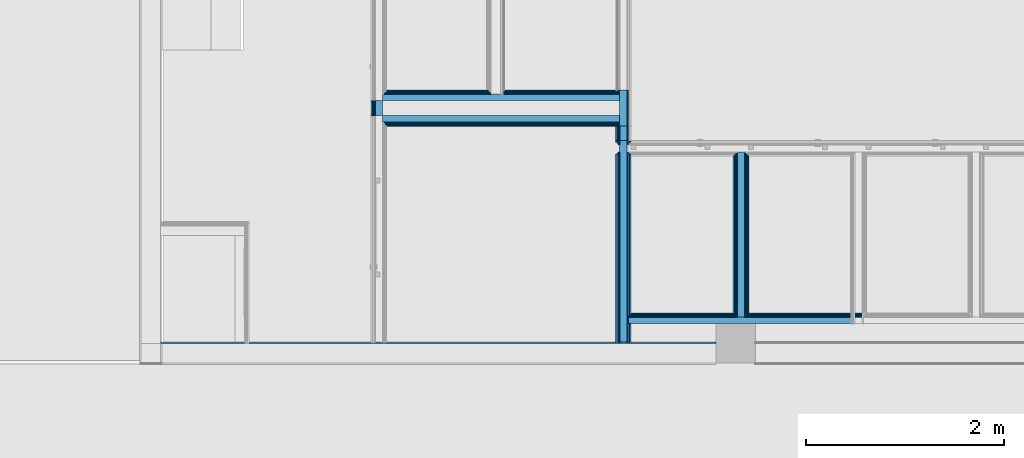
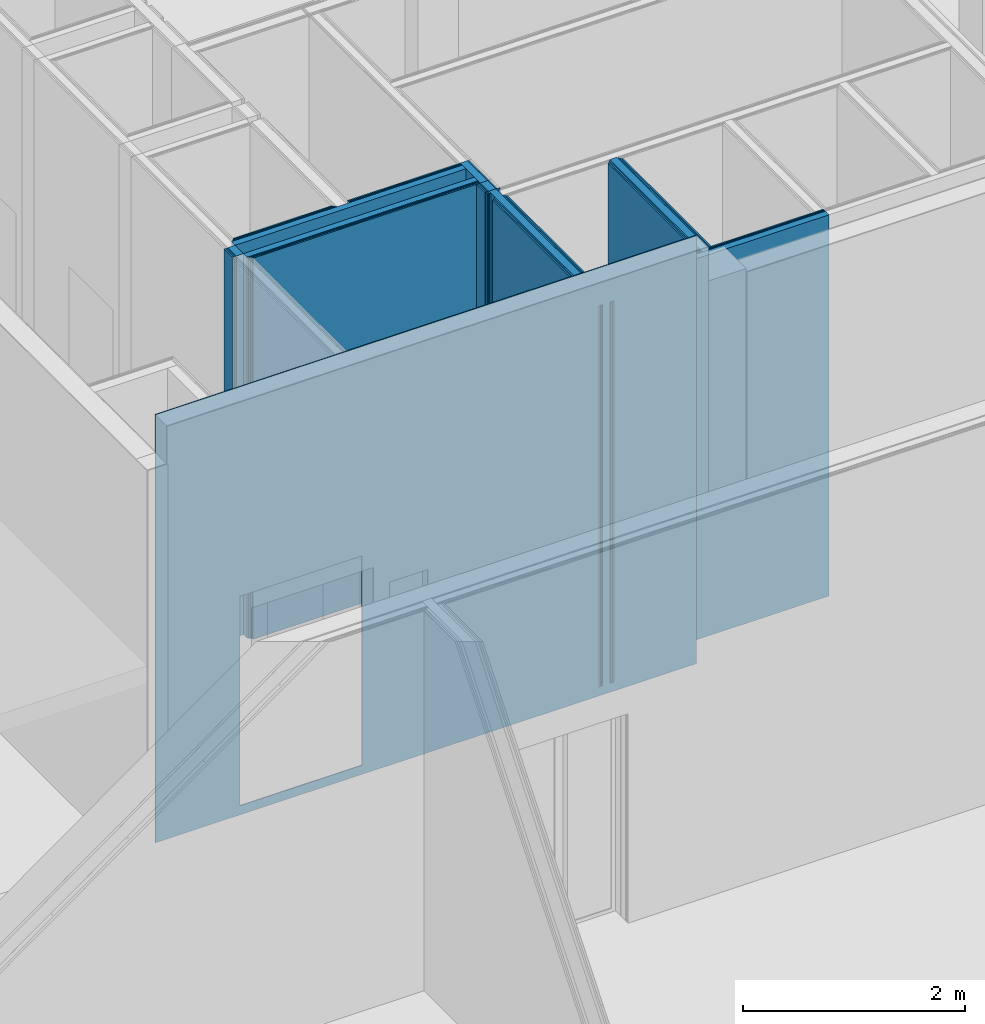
# One storey, part 198 of 260: 38 building element parts, 2 openings, 9 elements without a shape of their own.
"""IFC2X3 building model written with IfcOpenShell, lengths in millimetres."""

from ifc_helpers import new_model, entity, si_unit, converted_unit, derived_unit, money_unit, direction, frame, origin_with_axes, place, context, subcontext, project, spatial, faceted_brep, material, type_object, element, aggregate, save


model = new_model("IFC2X3")

# Units and contexts
model_context = context("Model", 3, precision=0.01, world=origin_with_axes(), true_north=direction((0.0, 1.0)))
body_context = subcontext(model_context, "Body", "Model", "MODEL_VIEW")
ifc_project = project(units=[si_unit("LENGTHUNIT", "METRE", prefix="MILLI"), si_unit("AREAUNIT", "SQUARE_METRE"), si_unit("VOLUMEUNIT", "CUBIC_METRE"), converted_unit("PLANEANGLEUNIT", "DEGREE", entity("IfcPlaneAngleMeasure", 0.0174532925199), si_unit("PLANEANGLEUNIT", "RADIAN"), dimensions=[0, 0, 0, 0, 0, 0, 0]), money_unit("EUR"), converted_unit("TIMEUNIT", "Year", entity("IfcTimeMeasure", 31556926.0), si_unit("TIMEUNIT", "SECOND"), dimensions=[0, 0, 1, 0, 0, 0, 0]), si_unit("MASSUNIT", "GRAM", prefix="KILO"), si_unit("THERMODYNAMICTEMPERATUREUNIT", "DEGREE_CELSIUS"), si_unit("LUMINOUSINTENSITYUNIT", "LUMEN"), si_unit("ENERGYUNIT", "JOULE", prefix="MEGA"), derived_unit("THERMALCONDUCTANCEUNIT", [(si_unit("POWERUNIT", "WATT"), 1), (si_unit("LENGTHUNIT", "METRE"), -1), (si_unit("THERMODYNAMICTEMPERATUREUNIT", "KELVIN"), -1)]), derived_unit("SPECIFICHEATCAPACITYUNIT", [(si_unit("ENERGYUNIT", "JOULE"), 1), (si_unit("MASSUNIT", "GRAM", prefix="KILO"), -1), (si_unit("THERMODYNAMICTEMPERATUREUNIT", "KELVIN"), -1)]), derived_unit("MASSDENSITYUNIT", [(si_unit("MASSUNIT", "GRAM", prefix="KILO"), 1), (si_unit("VOLUMEUNIT", "CUBIC_METRE"), -1)])], contexts=[model_context])

# Site, building, storey
site_placement = place(None, origin_with_axes())
site = spatial("IfcSite", under=ifc_project, at=site_placement, Name="Kolde pst 67a", CompositionType="ELEMENT")
building_placement = place(site_placement, origin_with_axes())
building = spatial("IfcBuilding", under=site, at=building_placement, Name="Riigigümnaasium", CompositionType="ELEMENT")
storey_placement = place(building_placement, origin_with_axes())
storey = spatial("IfcBuildingStorey", under=building, at=storey_placement, Name="1. korrus", CompositionType="ELEMENT", Elevation=0.0)

# Wall, openings, building element part
wall_type_1 = type_object("IfcWallType", Name="SS-RB-20/1_+2 krohv 55 dB 220", PredefinedType="NOTDEFINED")
wall_1_placement = place(storey_placement, frame((64129.9442044, 10899.9619405, -100.100001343), z_axis=(0.0, 0.0, 1.0), x_axis=(1.0, 0.0, 0.0)))
wall_1 = element("IfcWall", 1, at=wall_1_placement, inside=storey, type_object=wall_type_1, Name="Sisesein")
opening_1_placement = place(wall_1_placement, frame((1512.33413721, 0.0, 100.100001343), z_axis=(0.0, 0.0, 1.0), x_axis=(1.0, 0.0, 0.0)))
element("IfcOpeningElement", 2, at=opening_1_placement, cuts=wall_1, Name="Ukseava", context=body_context, shape_type="Brep", body=[
    faceted_brep([(-633.609193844, -220.0, 0.0), (-633.609193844, -220.0, 2300.0), (-633.609193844, 440.0, 2300.0), (-633.609193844, 440.0, 0.0), (633.609193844, -220.0, 0.0), (633.609193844, -220.0, 2300.0), (633.609193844, 440.0, 2300.0), (633.609193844, 440.0, 0.0)], [[[0, 1, 2, 3]], [[0, 4, 5, 1]], [[1, 5, 6, 2]], [[3, 2, 6, 7]], [[4, 0, 3, 7]], [[5, 4, 7, 6]]]),
])
opening_2_placement = place(wall_1_placement, frame((-64129.9442044, -10899.9619405, 100.100001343), z_axis=(0.0, 0.0, 1.0), x_axis=(1.0, 0.0, 0.0)))
element("IfcOpeningElement", 3, at=opening_2_placement, cuts=wall_1, Name="Tulekustuti nišš vastavalt SA osale", ObjectType="OPENING", context=body_context, shape_type="Brep", body=[
    faceted_brep([(66439.9488956, 10689.9619405, 780.0), (66439.9488956, 10689.9619405, 2080.0), (66439.9488956, 10789.9619405, 2080.0), (66439.9488956, 10789.9619405, 780.0), (66839.9488956, 10689.9619405, 780.0), (66839.9488956, 10689.9619405, 2080.0), (66839.9488956, 10789.9619405, 2080.0), (66839.9488956, 10789.9619405, 780.0)], [[[0, 1, 2, 3]], [[0, 4, 5, 1]], [[1, 5, 6, 2]], [[3, 2, 6, 7]], [[4, 0, 3, 7]], [[5, 4, 7, 6]]]),
])
ifc_material_1 = material(Name="_VIIMISTLUSKIHT - viimistlus vastavalt SA osale")
building_element_part_1_placement = place(wall_1_placement, origin_with_axes())
building_element_part_1 = element("IfcBuildingElementPart", 4, at=building_element_part_1_placement, material=ifc_material_1, Name="_VIIMISTLUSKIHT - viimistlus vastavalt SA osale", context=body_context, shape_type="Brep", body=[
    faceted_brep([(5620.05512171, 0.0, 0.0), (5620.05512171, 0.0, 4700.10000134), (0.0, 0.0, 4700.10000134), (0.0, 0.0, 0.0), (2145.94333105, 0.0, 100.100001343), (878.724943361, 0.0, 100.100001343), (878.724943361, 0.0, 2400.10000134), (2145.94333105, 0.0, 2400.10000134), (5620.05512171, 10.0, 0.0), (5620.05512171, 10.0, 4700.10000134), (0.0, 10.0, 4700.10000134), (0.0, 10.0, 0.0), (2145.94333105, 10.0, 100.100001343), (878.724943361, 10.0, 100.100001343), (878.724943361, 10.0, 2400.10000134), (2145.94333105, 10.0, 2400.10000134)], [[[0, 1, 2, 3], [4, 5, 6, 7]], [[1, 0, 8, 9]], [[1, 9, 10, 2]], [[2, 10, 11, 3]], [[8, 0, 3, 11]], [[4, 12, 13, 5]], [[5, 13, 14, 6]], [[6, 14, 15, 7]], [[7, 15, 12, 4]], [[9, 8, 11, 10], [14, 13, 12, 15]]]),
])
aggregate(wall_1, [building_element_part_1])

# Wall, building element parts
wall_type_2 = type_object("IfcWallType", Name="SS-MK-66/3_šahti sein+plaat 106", PredefinedType="NOTDEFINED")
wall_2_placement = place(storey_placement, frame((68889.9994775, 13462.5000485, 0.0), z_axis=(0.0, 0.0, 1.0), x_axis=(-1.0, -7.27337343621e-07, 0.0)))
wall_2 = element("IfcWall", 5, at=wall_2_placement, inside=storey, type_object=wall_type_2, Name="Sisesein")
ifc_material_2 = material(Name="_KARKASS - metallkarkass CW 75/50, mineraalvill karkassi vahel")
building_element_part_2_placement = place(wall_2_placement, origin_with_axes())
building_element_part_2 = element("IfcBuildingElementPart", 6, at=building_element_part_2_placement, material=ifc_material_2, Name="_KARKASS - metallkarkass CW 75/50, mineraalvill karkassi vahel", context=body_context, shape_type="Brep", body=[
    faceted_brep([(2514.11197109, 40.0, 4185.0), (115.000029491, 40.0, 4185.0), (115.000029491, 40.0, 0.0), (2514.11197109, 40.0, 0.0), (115.000077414, 106.0, 4185.0), (2514.1120191, 106.0, 4185.0), (115.000077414, 106.0, 0.0), (2514.1120191, 106.0, 0.0)], [[[0, 1, 2, 3]], [[4, 1, 0, 5]], [[1, 4, 6, 2]], [[3, 2, 6, 7]], [[5, 0, 3, 7]], [[4, 5, 7, 6]]]),
])
ifc_material_3 = material(Name="_PLAATMATERJAL - kipsplaat veekindel")
building_element_part_3_placement = place(wall_2_placement, origin_with_axes())
building_element_part_3 = element("IfcBuildingElementPart", 7, at=building_element_part_3_placement, material=ifc_material_3, Name="_PLAATMATERJAL - kipsplaat veekindel", context=body_context, shape_type="Brep", body=[
    faceted_brep([(2501.611962, 27.5, 4185.0), (1419.11943299, 27.5, 4185.0), (1419.11943299, 27.5, 0.0), (2501.611962, 27.5, 0.0), (1419.11945556, 40.0, 4185.0), (2501.61197109, 40.0, 4185.0), (1419.11945556, 40.0, 0.0), (2501.61197109, 40.0, 0.0)], [[[0, 1, 2, 3]], [[4, 1, 0, 5]], [[1, 4, 6, 2]], [[3, 2, 6, 7]], [[5, 0, 3, 7]], [[4, 5, 7, 6]]]),
    faceted_brep([(1289.11943299, 27.5, 4185.0), (115.000020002, 27.5, 4185.0), (115.000020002, 27.5, 0.0), (1289.11943299, 27.5, 0.0), (115.000029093, 40.0, 4185.0), (1289.11945556, 40.0, 4185.0), (115.000029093, 40.0, 0.0), (1289.11945556, 40.0, 0.0)], [[[0, 1, 2, 3]], [[4, 1, 0, 5]], [[1, 4, 6, 2]], [[3, 2, 6, 7]], [[5, 0, 3, 7]], [[4, 5, 7, 6]]]),
])
building_element_part_4_placement = place(wall_2_placement, origin_with_axes())
building_element_part_4 = element("IfcBuildingElementPart", 8, at=building_element_part_4_placement, material=ifc_material_3, Name="_PLAATMATERJAL - kipsplaat veekindel", context=body_context, shape_type="Brep", body=[
    faceted_brep([(2489.11195291, 15.0, 4185.0), (1431.61941041, 15.0, 4185.0), (1431.61941041, 15.0, 0.0), (2489.11195291, 15.0, 0.0), (1431.61943299, 27.5, 4185.0), (2489.111962, 27.5, 4185.0), (1431.61943299, 27.5, 0.0), (2489.111962, 27.5, 0.0)], [[[0, 1, 2, 3]], [[4, 1, 0, 5]], [[1, 4, 6, 2]], [[3, 2, 6, 7]], [[5, 0, 3, 7]], [[4, 5, 7, 6]]]),
    faceted_brep([(1289.11941041, 15.0, 4185.0), (115.00001091, 15.0, 4185.0), (115.00001091, 15.0, 0.0), (1289.11941041, 15.0, 0.0), (115.000020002, 27.5, 4185.0), (1289.11943299, 27.5, 4185.0), (115.000020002, 27.5, 0.0), (1289.11943299, 27.5, 0.0)], [[[0, 1, 2, 3]], [[4, 1, 0, 5]], [[1, 4, 6, 2]], [[3, 2, 6, 7]], [[5, 0, 3, 7]], [[4, 5, 7, 6]]]),
])
building_element_part_5_placement = place(wall_2_placement, origin_with_axes())
building_element_part_5 = element("IfcBuildingElementPart", 9, at=building_element_part_5_placement, material=ifc_material_1, Name="_VIIMISTLUSKIHT - viimistlus vastavalt SA osale", context=body_context, shape_type="Brep", body=[
    faceted_brep([(2474.111942, 0.0, 4185.0), (1444.11938331, 0.0, 4185.0), (1444.11938331, 0.0, 0.0), (2474.111942, 0.0, 0.0), (1444.11941041, 15.0, 4185.0), (2474.11195291, 15.0, 4185.0), (1444.11941041, 15.0, 0.0), (2474.11195291, 15.0, 0.0)], [[[0, 1, 2, 3]], [[4, 1, 0, 5]], [[1, 4, 6, 2]], [[3, 2, 6, 7]], [[5, 0, 3, 7]], [[4, 5, 7, 6]]]),
    faceted_brep([(1289.11938331, 0.0, 4185.0), (115.0, 0.000101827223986, 4185.0), (115.0, 0.000101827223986, 0.0), (1289.11938331, 0.0, 0.0), (115.00001091, 15.0, 4185.0), (1289.11941041, 15.0, 4185.0), (115.00001091, 15.0, 0.0), (1289.11941041, 15.0, 0.0)], [[[0, 1, 2, 3]], [[4, 1, 0, 5]], [[1, 4, 6, 2]], [[3, 2, 6, 7]], [[5, 0, 3, 7]], [[4, 5, 7, 6]]]),
])
aggregate(wall_2, [building_element_part_2, building_element_part_3, building_element_part_4, building_element_part_5])

wall_3_placement = place(storey_placement, frame((66260.8875355, 13100.0014535, 0.0), z_axis=(0.0, 0.0, 1.0), x_axis=(1.0, -5.94978458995e-07, 0.0)))
wall_3 = element("IfcWall", 10, at=wall_3_placement, inside=storey, type_object=wall_type_2, Name="Varisein")
building_element_part_6_placement = place(wall_3_placement, origin_with_axes())
building_element_part_6 = element("IfcBuildingElementPart", 11, at=building_element_part_6_placement, material=ifc_material_2, Name="_KARKASS - metallkarkass CW 75/50, mineraalvill karkassi vahel", context=body_context, shape_type="Brep", body=[
    faceted_brep([(114.999936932, 106.0, 4185.0), (2514.11187893, 106.0, 4185.0), (2514.11187893, 106.0, 0.0), (114.999936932, 106.0, 0.0), (2514.1119182, 40.0, 4185.0), (114.999976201, 40.0, 4185.0), (2514.1119182, 40.0, 0.0), (114.999976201, 40.0, 0.0)], [[[0, 1, 2, 3]], [[4, 1, 0, 5]], [[1, 4, 6, 2]], [[3, 2, 6, 7]], [[5, 0, 3, 7]], [[4, 5, 7, 6]]]),
])
building_element_part_7_placement = place(wall_3_placement, origin_with_axes())
building_element_part_7 = element("IfcBuildingElementPart", 12, at=building_element_part_7_placement, material=ifc_material_3, Name="_PLAATMATERJAL - kipsplaat veekindel", context=body_context, shape_type="Brep", body=[
    faceted_brep([(127.499976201, 40.0, 4185.0), (2514.1119182, 40.0, 4185.0), (2514.1119182, 40.0, 0.0), (127.499976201, 40.0, 0.0), (2514.11192564, 27.5, 4185.0), (127.499983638, 27.5, 4185.0), (2514.11192564, 27.5, 0.0), (127.499983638, 27.5, 0.0)], [[[0, 1, 2, 3]], [[4, 1, 0, 5]], [[1, 4, 6, 2]], [[3, 2, 6, 7]], [[5, 0, 3, 7]], [[4, 5, 7, 6]]]),
])
building_element_part_8_placement = place(wall_3_placement, origin_with_axes())
building_element_part_8 = element("IfcBuildingElementPart", 13, at=building_element_part_8_placement, material=ifc_material_3, Name="_PLAATMATERJAL - kipsplaat veekindel", context=body_context, shape_type="Brep", body=[
    faceted_brep([(139.999983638, 27.5, 4185.0), (2514.11192564, 27.5, 4185.0), (2514.11192564, 27.5, 0.0), (139.999983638, 27.5, 0.0), (2514.11193308, 15.0, 4185.0), (139.999991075, 15.0, 4185.0), (2514.11193308, 15.0, 0.0), (139.999991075, 15.0, 0.0)], [[[0, 1, 2, 3]], [[4, 1, 0, 5]], [[1, 4, 6, 2]], [[3, 2, 6, 7]], [[5, 0, 3, 7]], [[4, 5, 7, 6]]]),
])
building_element_part_9_placement = place(wall_3_placement, origin_with_axes())
building_element_part_9 = element("IfcBuildingElementPart", 14, at=building_element_part_9_placement, material=ifc_material_1, Name="_VIIMISTLUSKIHT - viimistlus vastavalt SA osale", context=body_context, shape_type="Brep", body=[
    faceted_brep([(154.999991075, 15.0, 4185.0), (2514.11193308, 15.0, 4185.0), (2514.11193308, 15.0, 0.0), (154.999991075, 15.0, 0.0), (2514.111942, 0.0, 4185.0), (155.0, 0.0, 4185.0), (2514.111942, 0.0, 0.0), (155.0, 0.0, 0.0)], [[[0, 1, 2, 3]], [[4, 1, 0, 5]], [[1, 4, 6, 2]], [[3, 2, 6, 7]], [[5, 0, 3, 7]], [[4, 5, 7, 6]]]),
])
aggregate(wall_3, [building_element_part_6, building_element_part_7, building_element_part_8, building_element_part_9])

wall_4_placement = place(storey_placement, frame((71242.4981969, 11204.9619407, 0.0), z_axis=(0.0, 0.0, 1.0), x_axis=(-1.0, 0.0, 0.0)))
wall_4 = element("IfcWall", 15, at=wall_4_placement, inside=storey, type_object=wall_type_2, Name="Varisein")
building_element_part_10_placement = place(wall_4_placement, origin_with_axes())
building_element_part_10 = element("IfcBuildingElementPart", 16, at=building_element_part_10_placement, material=ifc_material_2, Name="_KARKASS - metallkarkass CW 75/50, mineraalvill karkassi vahel", context=body_context, shape_type="Brep", body=[
    faceted_brep([(1492.49887074, 106.0, 4185.0), (1492.49887074, 105.0, 4185.0), (1092.49887074, 105.0, 4185.0), (1092.49887074, 106.0, 4185.0), (0.0, 106.0, 4185.0), (0.0, 40.0, 4185.0), (2379.11651647, 40.0, 4185.0), (2379.11651647, 106.0, 4185.0), (1492.49887074, 106.0, 0.0), (1492.49887074, 105.0, 0.0), (1092.49887074, 105.0, 0.0), (1092.49887074, 106.0, 0.0), (0.0, 106.0, 0.0), (0.0, 40.0, 0.0), (2379.11651647, 40.0, 0.0), (2379.11651647, 106.0, 0.0)], [[[0, 1, 2, 3, 4, 5, 6, 7]], [[1, 0, 8, 9]], [[2, 1, 9, 10]], [[3, 2, 10, 11]], [[3, 11, 12, 4]], [[13, 5, 4, 12]], [[6, 5, 13, 14]], [[15, 7, 6, 14]], [[8, 0, 7, 15]], [[9, 8, 15, 14, 13, 12, 11, 10]]]),
])
building_element_part_11_placement = place(wall_4_placement, origin_with_axes())
building_element_part_11 = element("IfcBuildingElementPart", 17, at=building_element_part_11_placement, material=ifc_material_3, Name="_PLAATMATERJAL - kipsplaat veekindel", context=body_context, shape_type="Brep", body=[
    faceted_brep([(1202.50016871, 27.5, 4185.0), (0.0, 27.5, 4185.0), (0.0, 27.5, 0.0), (1202.50016871, 27.5, 0.0), (0.0, 40.0, 4185.0), (1202.50018031, 40.0, 4185.0), (0.0, 40.0, 0.0), (1202.50018031, 40.0, 0.0)], [[[0, 1, 2, 3]], [[4, 1, 0, 5]], [[1, 4, 6, 2]], [[7, 3, 2, 6]], [[5, 0, 3, 7]], [[4, 5, 7, 6]]]),
    faceted_brep([(1277.50016871, 27.5, 4185.0), (1277.50016871, 27.5, 0.0), (2379.11651647, 27.5, 0.0), (2379.11651647, 27.5, 4185.0), (1277.50018031, 40.0, 4185.0), (1277.50018031, 40.0, 0.0), (2379.11651647, 40.0, 0.0), (2379.11651647, 40.0, 4185.0)], [[[0, 1, 2, 3]], [[0, 4, 5, 1]], [[5, 6, 2, 1]], [[7, 3, 2, 6]], [[4, 0, 3, 7]], [[4, 7, 6, 5]]]),
])
building_element_part_12_placement = place(wall_4_placement, origin_with_axes())
building_element_part_12 = element("IfcBuildingElementPart", 18, at=building_element_part_12_placement, material=ifc_material_3, Name="_PLAATMATERJAL - kipsplaat veekindel", context=body_context, shape_type="Brep", body=[
    faceted_brep([(1190.00015712, 15.0, 4185.0), (0.0, 15.0, 4185.0), (0.0, 15.0, 0.0), (1190.00015712, 15.0, 0.0), (0.0, 27.5, 4185.0), (1190.00016871, 27.5, 4185.0), (0.0, 27.5, 0.0), (1190.00016871, 27.5, 0.0)], [[[0, 1, 2, 3]], [[4, 1, 0, 5]], [[1, 4, 6, 2]], [[7, 3, 2, 6]], [[5, 0, 3, 7]], [[4, 5, 7, 6]]]),
    faceted_brep([(1290.00015712, 15.0, 4185.0), (1290.00015712, 15.0, 0.0), (2367.49871941, 15.0, 0.0), (2367.49871941, 15.0, 4185.0), (1290.00016871, 27.5, 4185.0), (1290.00016871, 27.5, 0.0), (2367.49871941, 27.5, 0.0), (2367.49871941, 27.5, 4185.0)], [[[0, 1, 2, 3]], [[0, 4, 5, 1]], [[6, 2, 1, 5]], [[7, 3, 2, 6]], [[4, 0, 3, 7]], [[4, 7, 6, 5]]]),
])
building_element_part_13_placement = place(wall_4_placement, origin_with_axes())
building_element_part_13 = element("IfcBuildingElementPart", 19, at=building_element_part_13_placement, material=ifc_material_1, Name="_VIIMISTLUSKIHT - viimistlus vastavalt SA osale", context=body_context, shape_type="Brep", body=[
    faceted_brep([(1177.50014321, 0.0, 4185.0), (0.0, 0.0, 4185.0), (0.0, 0.0, 0.0), (1177.50014321, 0.0, 0.0), (0.0, 15.0, 4185.0), (1177.50015712, 15.0, 4185.0), (0.0, 15.0, 0.0), (1177.50015712, 15.0, 0.0)], [[[0, 1, 2, 3]], [[4, 1, 0, 5]], [[1, 4, 6, 2]], [[7, 3, 2, 6]], [[5, 0, 3, 7]], [[4, 5, 7, 6]]]),
    faceted_brep([(2352.49871941, 0.0, 4185.0), (1302.50014321, 0.0, 4185.0), (1302.50014321, 0.0, 0.0), (2352.49871941, 0.0, 0.0), (1302.50015712, 15.0, 4185.0), (2352.49871941, 15.0, 4185.0), (1302.50015712, 15.0, 0.0), (2352.49871941, 15.0, 0.0)], [[[0, 1, 2, 3]], [[4, 1, 0, 5]], [[1, 4, 6, 2]], [[7, 3, 2, 6]], [[5, 0, 3, 7]], [[4, 5, 7, 6]]]),
])
aggregate(wall_4, [building_element_part_10, building_element_part_11, building_element_part_12, building_element_part_13])

wall_type_3 = type_object("IfcWallType", Name="SS-MK-7,5/1_plaaditud 155", PredefinedType="NOTDEFINED")
wall_5_placement = place(storey_placement, frame((70079.99953, 12796.8961605, 0.0), z_axis=(0.0, 0.0, 1.0), x_axis=(-9.27392093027e-07, -1.0, 0.0)))
wall_5 = element("IfcWall", 20, at=wall_5_placement, inside=storey, type_object=wall_type_3, Name="Sisesein")
building_element_part_14_placement = place(wall_5_placement, origin_with_axes())
building_element_part_14 = element("IfcBuildingElementPart", 21, at=building_element_part_14_placement, material=ifc_material_1, Name="_VIIMISTLUSKIHT - viimistlus vastavalt SA osale", context=body_context, shape_type="Brep", body=[
    faceted_brep([(0.000899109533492, -14.9999998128, 4185.0), (0.000885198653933, -2.24616769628e-07, 4185.0), (0.000885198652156, 0.0, 0.0), (0.000899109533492, -15.0, 0.0), (1591.93421978, -1.77330150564e-06, 4185.0), (1591.93422103, -14.9999986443, 4185.0), (1591.93421978, 0.0, 0.0), (1591.93423369, -15.0, 0.0)], [[[0, 1, 2, 3]], [[4, 1, 0, 5]], [[1, 4, 6, 2]], [[2, 6, 7, 3]], [[5, 0, 3, 7]], [[4, 5, 7, 6]]]),
])
building_element_part_15_placement = place(wall_5_placement, origin_with_axes())
building_element_part_15 = element("IfcBuildingElementPart", 22, at=building_element_part_15_placement, material=ifc_material_3, Name="_PLAATMATERJAL - kipsplaat veekindel", context=body_context, shape_type="Brep", body=[
    faceted_brep([(-14.9990892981, -27.5, 4185.0), (-14.9991008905, -14.9999998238, 4185.0), (-14.9991008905, -15.0, 0.0), (-14.9990892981, -27.5, 0.0), (1606.93423369, -14.9999985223, 4185.0), (1606.93424528, -27.5, 4185.0), (1606.93423369, -15.0, 0.0), (1606.93424528, -27.5, 0.0)], [[[0, 1, 2, 3]], [[4, 1, 0, 5]], [[1, 4, 6, 2]], [[2, 6, 7, 3]], [[5, 0, 3, 7]], [[4, 5, 7, 6]]]),
])
building_element_part_16_placement = place(wall_5_placement, origin_with_axes())
building_element_part_16 = element("IfcBuildingElementPart", 23, at=building_element_part_16_placement, material=ifc_material_3, Name="_PLAATMATERJAL - kipsplaat veekindel", context=body_context, shape_type="Brep", body=[
    faceted_brep([(-27.4990777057, -40.0000000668, 4185.0), (-27.4990892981, -27.5, 4185.0), (-27.4990892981, -27.5, 0.0), (-27.4990777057, -40.0, 0.0), (1619.43424528, -27.5, 4185.0), (1619.43425687, -40.0000005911, 4185.0), (1619.43424528, -27.5, 0.0), (1619.43425687, -40.0, 0.0)], [[[0, 1, 2, 3]], [[4, 1, 0, 5]], [[1, 4, 6, 2]], [[2, 6, 7, 3]], [[5, 0, 3, 7]], [[4, 5, 7, 6]]]),
])
building_element_part_17_placement = place(wall_5_placement, origin_with_axes())
building_element_part_17 = element("IfcBuildingElementPart", 24, at=building_element_part_17_placement, material=ifc_material_2, Name="_KARKASS - metallkarkass CW 75/50, mineraalvill karkassi vahel", context=body_context, shape_type="Brep", body=[
    faceted_brep([(-39.9990081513, -115.000000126, 4185.0), (-39.9990777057, -40.0000000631, 4185.0), (-39.9990777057, -40.0, 0.0), (-39.9990081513, -115.0, 0.0), (1631.93425687, -40.0000005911, 4185.0), (1631.93432643, -115.000001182, 4185.0), (1631.93425687, -40.0, 0.0), (1631.93432643, -115.0, 0.0)], [[[0, 1, 2, 3]], [[4, 1, 0, 5]], [[1, 4, 6, 2]], [[2, 6, 7, 3]], [[5, 0, 3, 7]], [[4, 5, 7, 6]]]),
])
building_element_part_18_placement = place(wall_5_placement, origin_with_axes())
building_element_part_18 = element("IfcBuildingElementPart", 25, at=building_element_part_18_placement, material=ifc_material_3, Name="_PLAATMATERJAL - kipsplaat veekindel", context=body_context, shape_type="Brep", body=[
    faceted_brep([(-27.4989965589, -127.5, 4185.0), (-27.4990081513, -115.000000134, 4185.0), (-27.4990081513, -115.0, 0.0), (-27.4989965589, -127.5, 0.0), (1619.43432643, -115.000001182, 4185.0), (1619.43433802, -127.5, 4185.0), (1619.43432643, -115.0, 0.0), (1619.43433802, -127.5, 0.0)], [[[0, 1, 2, 3]], [[4, 1, 0, 5]], [[1, 4, 6, 2]], [[2, 6, 7, 3]], [[5, 0, 3, 7]], [[4, 5, 7, 6]]]),
])
building_element_part_19_placement = place(wall_5_placement, origin_with_axes())
building_element_part_19 = element("IfcBuildingElementPart", 26, at=building_element_part_19_placement, material=ifc_material_3, Name="_PLAATMATERJAL - kipsplaat veekindel", context=body_context, shape_type="Brep", body=[
    faceted_brep([(-14.9989965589, -127.5, 4185.0), (-14.9989965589, -127.5, 0.0), (-14.9989849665, -140.0, 0.0), (-14.9989849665, -139.999999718, 4185.0), (1606.93433802, -127.5, 4185.0), (1606.93433802, -127.5, 0.0), (1606.93434961, -140.0, 0.0), (1606.93434961, -139.999997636, 4185.0)], [[[0, 1, 2, 3]], [[0, 4, 5, 1]], [[1, 5, 6, 2]], [[7, 3, 2, 6]], [[4, 0, 3, 7]], [[4, 7, 6, 5]]]),
])
building_element_part_20_placement = place(wall_5_placement, origin_with_axes())
building_element_part_20 = element("IfcBuildingElementPart", 27, at=building_element_part_20_placement, material=ifc_material_1, Name="_VIIMISTLUSKIHT - viimistlus vastavalt SA osale", context=body_context, shape_type="Brep", body=[
    faceted_brep([(0.00102894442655, -155.0, 4185.0), (0.00101503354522, -139.999999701, 4185.0), (0.00101503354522, -140.0, 0.0), (0.00102894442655, -155.0, 0.0), (1591.93423149, -139.999997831, 4185.0), (1591.93436352, -155.0, 4185.0), (1591.93434961, -140.0, 0.0), (1591.93436352, -155.0, 0.0)], [[[0, 1, 2, 3]], [[4, 1, 0, 5]], [[1, 4, 6, 2]], [[2, 6, 7, 3]], [[5, 0, 3, 7]], [[4, 5, 7, 6]]]),
])
aggregate(wall_5, [building_element_part_14, building_element_part_15, building_element_part_16, building_element_part_17, building_element_part_18, building_element_part_19, building_element_part_20])

wall_type_4 = type_object("IfcWallType", Name="SS-MK-7,5/_plaatvarisein 115", PredefinedType="NOTDEFINED")
wall_6_placement = place(storey_placement, frame((68889.9994775, 13462.4999358, 0.0), z_axis=(0.0, 0.0, 1.0), x_axis=(0.0, -1.0, 0.0)))
wall_6 = element("IfcWall", 28, at=wall_6_placement, inside=storey, type_object=wall_type_4, Name="Sisesein")
building_element_part_21_placement = place(wall_6_placement, origin_with_axes())
building_element_part_21 = element("IfcBuildingElementPart", 29, at=building_element_part_21_placement, material=ifc_material_3, Name="_PLAATMATERJAL - kipsplaat veekindel", context=body_context, shape_type="Brep", body=[
    faceted_brep([(0.0, -40.0, 4185.0), (0.0, -27.5, 4185.0), (0.0, -27.5, 0.0), (0.0, -40.0, 0.0), (362.499954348, -27.5, 4185.0), (362.499954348, -40.0, 4185.0), (362.499954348, -27.5, 0.0), (362.499954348, -40.0, 0.0)], [[[0, 1, 2, 3]], [[4, 1, 0, 5]], [[1, 4, 6, 2]], [[3, 2, 6, 7]], [[5, 0, 3, 7]], [[4, 5, 7, 6]]]),
])
building_element_part_22_placement = place(wall_6_placement, origin_with_axes())
building_element_part_22 = element("IfcBuildingElementPart", 30, at=building_element_part_22_placement, material=ifc_material_2, Name="_KARKASS - metallkarkass CW 75/50, mineraalvill karkassi vahel", context=body_context, shape_type="Brep", body=[
    faceted_brep([(0.0, -115.0, 4185.0), (0.0, -40.0, 4185.0), (0.0, -40.0, 0.0), (0.0, -115.0, 0.0), (362.499954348, -40.0, 4185.0), (362.499954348, -115.0, 4185.0), (362.499954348, -40.0, 0.0), (362.499954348, -115.0, 0.0)], [[[0, 1, 2, 3]], [[4, 1, 0, 5]], [[1, 4, 6, 2]], [[7, 3, 2, 6]], [[5, 0, 3, 7]], [[4, 5, 7, 6]]]),
])
aggregate(wall_6, [building_element_part_21, building_element_part_22])

wall_7_placement = place(storey_placement, frame((68889.9994775, 13099.9999815, 0.0), z_axis=(0.0, 0.0, 1.0), x_axis=(0.0, -1.0, 0.0)))
wall_7 = element("IfcWall", 31, at=wall_7_placement, inside=storey, type_object=wall_type_3, Name="Sisesein")
building_element_part_23_placement = place(wall_7_placement, origin_with_axes())
building_element_part_23 = element("IfcBuildingElementPart", 32, at=building_element_part_23_placement, material=ifc_material_3, Name="_PLAATMATERJAL - kipsplaat veekindel", context=body_context, shape_type="Brep", body=[
    faceted_brep([(0.0, -40.0, 4185.0), (0.0, -27.5, 4185.0), (0.0, -27.5, 0.0), (0.0, -40.0, 0.0), (148.104706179, -27.5, 4185.0), (148.104706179, -40.0, 4185.0), (148.104706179, -27.5, 0.0), (148.104706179, -40.0, 0.0)], [[[0, 1, 2, 3]], [[4, 1, 0, 5]], [[1, 4, 6, 2]], [[3, 2, 6, 7]], [[5, 0, 3, 7]], [[4, 5, 7, 6]]]),
])
building_element_part_24_placement = place(wall_7_placement, origin_with_axes())
building_element_part_24 = element("IfcBuildingElementPart", 33, at=building_element_part_24_placement, material=ifc_material_2, Name="_KARKASS - metallkarkass CW 75/50, mineraalvill karkassi vahel", context=body_context, shape_type="Brep", body=[
    faceted_brep([(0.0, -115.0, 4185.0), (0.0, -40.0, 4185.0), (0.0, -40.0, 0.0), (0.0, -115.0, 0.0), (148.104706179, -40.0, 4185.0), (148.104706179, -115.0, 4185.0), (148.104706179, -40.0, 0.0), (148.104706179, -115.0, 0.0)], [[[0, 1, 2, 3]], [[4, 1, 0, 5]], [[1, 4, 6, 2]], [[7, 3, 2, 6]], [[5, 0, 3, 7]], [[4, 5, 7, 6]]]),
])
building_element_part_25_placement = place(wall_7_placement, origin_with_axes())
building_element_part_25 = element("IfcBuildingElementPart", 34, at=building_element_part_25_placement, material=ifc_material_3, Name="_PLAATMATERJAL - kipsplaat veekindel", context=body_context, shape_type="Brep", body=[
    faceted_brep([(0.0, -127.5, 4185.0), (0.0, -115.0, 4185.0), (0.0, -115.0, 0.0), (0.0, -127.5, 0.0), (148.104706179, -115.0, 4185.0), (148.104706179, -127.5, 4185.0), (148.104706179, -115.0, 0.0), (148.104706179, -127.5, 0.0)], [[[0, 1, 2, 3]], [[4, 1, 0, 5]], [[1, 4, 6, 2]], [[7, 3, 2, 6]], [[5, 0, 3, 7]], [[4, 5, 7, 6]]]),
])
building_element_part_26_placement = place(wall_7_placement, origin_with_axes())
building_element_part_26 = element("IfcBuildingElementPart", 35, at=building_element_part_26_placement, material=ifc_material_3, Name="_PLAATMATERJAL - kipsplaat veekindel", context=body_context, shape_type="Brep", body=[
    faceted_brep([(0.0, -140.0, 4185.0), (0.0, -127.5, 4185.0), (0.0, -127.5, 0.0), (0.0, -140.0, 0.0), (148.104706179, -127.5, 4185.0), (148.104706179, -140.0, 4185.0), (148.104706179, -127.5, 0.0), (148.104706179, -140.0, 0.0)], [[[0, 1, 2, 3]], [[4, 1, 0, 5]], [[1, 4, 6, 2]], [[7, 3, 2, 6]], [[5, 0, 3, 7]], [[4, 5, 7, 6]]]),
])
building_element_part_27_placement = place(wall_7_placement, origin_with_axes())
building_element_part_27 = element("IfcBuildingElementPart", 36, at=building_element_part_27_placement, material=ifc_material_1, Name="_VIIMISTLUSKIHT - viimistlus vastavalt SA osale", context=body_context, shape_type="Brep", body=[
    faceted_brep([(0.0, -155.0, 4185.0), (0.0, -140.0, 4185.0), (0.0, -140.0, 0.0), (0.0, -155.0, 0.0), (148.104706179, -140.0, 4185.0), (148.104706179, -155.0, 4185.0), (148.104706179, -140.0, 0.0), (148.104706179, -155.0, 0.0)], [[[0, 1, 2, 3]], [[4, 1, 0, 5]], [[1, 4, 6, 2]], [[7, 3, 2, 6]], [[5, 0, 3, 7]], [[4, 5, 7, 6]]]),
])
aggregate(wall_7, [building_element_part_23, building_element_part_24, building_element_part_25, building_element_part_26, building_element_part_27])

wall_8_placement = place(storey_placement, frame((68889.9994775, 12951.8952753, 0.0), z_axis=(0.0, 0.0, 1.0), x_axis=(0.0, -1.0, 0.0)))
wall_8 = element("IfcWall", 37, at=wall_8_placement, inside=storey, type_object=wall_type_3, Name="Sisesein")
building_element_part_28_placement = place(wall_8_placement, origin_with_axes())
building_element_part_28 = element("IfcBuildingElementPart", 38, at=building_element_part_28_placement, material=ifc_material_1, Name="_VIIMISTLUSKIHT - viimistlus vastavalt SA osale", context=body_context, shape_type="Brep", body=[
    faceted_brep([(1852.93333458, -15.0, 4185.0), (1852.93333458, 0.0, 4185.0), (1852.93333458, 0.0, 0.0), (1852.93333458, -15.0, 0.0), (2051.93333458, 0.0, 4185.0), (2051.93333458, -15.0, 4185.0), (2051.93333458, 0.0, 0.0), (2051.93333458, -15.0, 0.0)], [[[0, 1, 2, 3]], [[4, 1, 0, 5]], [[1, 4, 6, 2]], [[7, 3, 2, 6]], [[5, 0, 3, 7]], [[4, 5, 7, 6]]]),
    faceted_brep([(0.0, -15.0, 4185.0), (0.0, 0.0, 4185.0), (0.0, 0.0, 0.0), (0.0, -15.0, 0.0), (15.0, 0.0, 4185.0), (15.0, -15.0, 4185.0), (15.0, 0.0, 0.0), (15.0, -15.0, 0.0)], [[[0, 1, 2, 3]], [[4, 1, 0, 5]], [[1, 4, 6, 2]], [[6, 7, 3, 2]], [[5, 0, 3, 7]], [[4, 5, 7, 6]]]),
    faceted_brep([(140.0, -15.0, 4185.0), (140.0, 0.0, 4185.0), (140.0, 0.0, 0.0), (140.0, -15.0, 0.0), (1761.93333458, 0.0, 4185.0), (1761.93333458, -15.0, 4185.0), (1761.93333458, 0.0, 0.0), (1761.93333458, -15.0, 0.0)], [[[0, 1, 2, 3]], [[4, 1, 0, 5]], [[1, 4, 6, 2]], [[2, 6, 7, 3]], [[5, 0, 3, 7]], [[4, 5, 7, 6]]]),
])
building_element_part_29_placement = place(wall_8_placement, origin_with_axes())
building_element_part_29 = element("IfcBuildingElementPart", 39, at=building_element_part_29_placement, material=ifc_material_3, Name="_PLAATMATERJAL - kipsplaat veekindel", context=body_context, shape_type="Brep", body=[
    faceted_brep([(127.5, -27.5, 4185.0), (127.5, -15.0, 4185.0), (127.5, -15.0, 0.0), (127.5, -27.5, 0.0), (1774.43333458, -15.0, 4185.0), (2051.93333458, -27.5, 4185.0), (2051.93333458, -15.0, 4185.0), (1852.93333458, -15.0, 4185.0), (1852.93333458, -26.6177970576, 4185.0), (1774.43333458, -26.6177970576, 4185.0), (1774.43333458, -15.0, 0.0), (1774.43333458, -26.6177970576, 0.0), (1852.93333458, -26.6177970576, 0.0), (1852.93333458, -15.0, 0.0), (2051.93333458, -15.0, 0.0), (2051.93333458, -27.5, 0.0)], [[[0, 1, 2, 3]], [[4, 1, 0, 5, 6, 7, 8, 9]], [[1, 4, 10, 2]], [[10, 11, 12, 13, 14, 15, 3, 2]], [[5, 0, 3, 15]], [[6, 5, 15, 14]], [[7, 6, 14, 13]], [[8, 7, 13, 12]], [[9, 8, 12, 11]], [[4, 9, 11, 10]]]),
    faceted_brep([(0.0, -27.5, 4185.0), (0.0, -15.0, 4185.0), (0.0, -15.0, 0.0), (0.0, -27.5, 0.0), (27.5, -15.0, 4185.0), (27.5, -27.5, 4185.0), (27.5, -15.0, 0.0), (27.5, -27.5, 0.0)], [[[0, 1, 2, 3]], [[4, 1, 0, 5]], [[1, 4, 6, 2]], [[6, 7, 3, 2]], [[5, 0, 3, 7]], [[4, 5, 7, 6]]]),
])
building_element_part_30_placement = place(wall_8_placement, origin_with_axes())
building_element_part_30 = element("IfcBuildingElementPart", 40, at=building_element_part_30_placement, material=ifc_material_3, Name="_PLAATMATERJAL - kipsplaat veekindel", context=body_context, shape_type="Brep", body=[
    faceted_brep([(115.0, -40.0, 4185.0), (115.0, -27.5, 4185.0), (115.0, -27.5, 0.0), (115.0, -40.0, 0.0), (2051.93333458, -27.5, 4185.0), (2051.93333458, -40.0, 4185.0), (2051.93333458, -27.5, 0.0), (2051.93333458, -40.0, 0.0)], [[[0, 1, 2, 3]], [[4, 1, 0, 5]], [[1, 4, 6, 2]], [[2, 6, 7, 3]], [[5, 0, 3, 7]], [[4, 5, 7, 6]]]),
    faceted_brep([(0.0, -40.0, 4185.0), (0.0, -27.5, 4185.0), (0.0, -27.5, 0.0), (0.0, -40.0, 0.0), (40.0, -27.5, 4185.0), (40.0, -40.0, 4185.0), (40.0, -27.5, 0.0), (40.0, -40.0, 0.0)], [[[0, 1, 2, 3]], [[4, 1, 0, 5]], [[1, 4, 6, 2]], [[6, 7, 3, 2]], [[5, 0, 3, 7]], [[4, 5, 7, 6]]]),
])
building_element_part_31_placement = place(wall_8_placement, origin_with_axes())
building_element_part_31 = element("IfcBuildingElementPart", 41, at=building_element_part_31_placement, material=ifc_material_2, Name="_KARKASS - metallkarkass CW 75/50, mineraalvill karkassi vahel", context=body_context, shape_type="Brep", body=[
    faceted_brep([(0.0, -115.0, 4185.0), (0.0, -40.0, 4185.0), (0.0, -40.0, 0.0), (0.0, -115.0, 0.0), (2051.93333458, -40.0, 4185.0), (2051.93333458, -115.0, 4185.0), (2051.93333458, -40.0, 0.0), (2051.93333458, -115.0, 0.0)], [[[0, 1, 2, 3]], [[4, 1, 0, 5]], [[1, 4, 6, 2]], [[2, 6, 7, 3]], [[5, 0, 3, 7]], [[4, 5, 7, 6]]]),
])
building_element_part_32_placement = place(wall_8_placement, origin_with_axes())
building_element_part_32 = element("IfcBuildingElementPart", 42, at=building_element_part_32_placement, material=ifc_material_3, Name="_PLAATMATERJAL - kipsplaat veekindel", context=body_context, shape_type="Brep", body=[
    faceted_brep([(115.0, -127.5, 4185.0), (115.0, -115.0, 4185.0), (115.0, -115.0, 0.0), (115.0, -127.5, 0.0), (2051.93333458, -115.0, 4185.0), (2051.93333458, -127.5, 4185.0), (2051.93333458, -115.0, 0.0), (2051.93333458, -127.5, 0.0)], [[[0, 1, 2, 3]], [[4, 1, 0, 5]], [[1, 4, 6, 2]], [[2, 6, 7, 3]], [[5, 0, 3, 7]], [[4, 5, 7, 6]]]),
    faceted_brep([(0.0, -127.5, 4185.0), (0.0, -115.0, 4185.0), (0.0, -115.0, 0.0), (0.0, -127.5, 0.0), (40.0, -115.0, 4185.0), (40.0, -127.5, 4185.0), (40.0, -115.0, 0.0), (40.0, -127.5, 0.0)], [[[0, 1, 2, 3]], [[4, 1, 0, 5]], [[1, 4, 6, 2]], [[6, 7, 3, 2]], [[5, 0, 3, 7]], [[4, 5, 7, 6]]]),
])
building_element_part_33_placement = place(wall_8_placement, origin_with_axes())
building_element_part_33 = element("IfcBuildingElementPart", 43, at=building_element_part_33_placement, material=ifc_material_3, Name="_PLAATMATERJAL - kipsplaat veekindel", context=body_context, shape_type="Brep", body=[
    faceted_brep([(127.5, -140.0, 4185.0), (127.5, -127.5, 4185.0), (127.5, -127.5, 0.0), (127.5, -140.0, 0.0), (2051.93333458, -127.5, 4185.0), (2051.93333458, -140.0, 4185.0), (2051.93333458, -127.5, 0.0), (2051.93333458, -140.0, 0.0)], [[[0, 1, 2, 3]], [[4, 1, 0, 5]], [[1, 4, 6, 2]], [[2, 6, 7, 3]], [[5, 0, 3, 7]], [[4, 5, 7, 6]]]),
    faceted_brep([(0.0, -140.0, 4185.0), (0.0, -127.5, 4185.0), (0.0, -127.5, 0.0), (0.0, -140.0, 0.0), (27.5, -127.5, 4185.0), (27.5, -140.0, 4185.0), (27.5, -127.5, 0.0), (27.5, -140.0, 0.0)], [[[0, 1, 2, 3]], [[4, 1, 0, 5]], [[1, 4, 6, 2]], [[6, 7, 3, 2]], [[5, 0, 3, 7]], [[4, 5, 7, 6]]]),
])
building_element_part_34_placement = place(wall_8_placement, origin_with_axes())
building_element_part_34 = element("IfcBuildingElementPart", 44, at=building_element_part_34_placement, material=ifc_material_1, Name="_VIIMISTLUSKIHT - viimistlus vastavalt SA osale", context=body_context, shape_type="Brep", body=[
    faceted_brep([(140.0, -155.0, 4185.0), (140.0, -140.0, 4185.0), (140.0, -140.0, 0.0), (140.0, -155.0, 0.0), (2051.93333458, -140.0, 4185.0), (2051.93333458, -155.0, 4185.0), (2051.93333458, -140.0, 0.0), (2051.93333458, -155.0, 0.0)], [[[0, 1, 2, 3]], [[4, 1, 0, 5]], [[1, 4, 6, 2]], [[2, 6, 7, 3]], [[5, 0, 3, 7]], [[4, 5, 7, 6]]]),
    faceted_brep([(0.0, -155.0, 4185.0), (0.0, -140.0, 4185.0), (0.0, -140.0, 0.0), (0.0, -155.0, 0.0), (15.0, -140.0, 4185.0), (15.0, -155.0, 4185.0), (15.0, -140.0, 0.0), (15.0, -155.0, 0.0)], [[[0, 1, 2, 3]], [[4, 1, 0, 5]], [[1, 4, 6, 2]], [[6, 7, 3, 2]], [[5, 0, 3, 7]], [[4, 5, 7, 6]]]),
])
aggregate(wall_8, [building_element_part_28, building_element_part_29, building_element_part_30, building_element_part_31, building_element_part_32, building_element_part_33, building_element_part_34])

wall_9_placement = place(storey_placement, frame((66260.8875355, 13206.0013851, 0.0), z_axis=(0.0, 0.0, 1.0), x_axis=(0.0, 1.0, 0.0)))
wall_9 = element("IfcWall", 45, at=wall_9_placement, inside=storey, type_object=wall_type_4, Name="Sisesein")
building_element_part_35_placement = place(wall_9_placement, origin_with_axes())
building_element_part_35 = element("IfcBuildingElementPart", 46, at=building_element_part_35_placement, material=ifc_material_1, Name="_VIIMISTLUSKIHT - viimistlus vastavalt SA osale", context=body_context, shape_type="Brep", body=[
    faceted_brep([(150.496834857, 0.0, 4185.0), (150.496834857, -15.0, 4185.0), (150.496834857, -15.0, 0.0), (150.496834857, 0.0, 0.0), (0.0, -15.0, 4185.0), (0.0, 0.0, 4185.0), (0.0, -15.0, 0.0), (0.0, 0.0, 0.0)], [[[0, 1, 2, 3]], [[4, 1, 0, 5]], [[1, 4, 6, 2]], [[7, 3, 2, 6]], [[5, 0, 3, 7]], [[4, 5, 7, 6]]]),
])
building_element_part_36_placement = place(wall_9_placement, origin_with_axes())
building_element_part_36 = element("IfcBuildingElementPart", 47, at=building_element_part_36_placement, material=ifc_material_3, Name="_PLAATMATERJAL - kipsplaat veekindel", context=body_context, shape_type="Brep", body=[
    faceted_brep([(150.496834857, -15.0, 4185.0), (150.496834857, -27.5, 4185.0), (150.496834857, -27.5, 0.0), (150.496834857, -15.0, 0.0), (0.0, -27.5, 4185.0), (0.0, -15.0, 4185.0), (0.0, -27.5, 0.0), (0.0, -15.0, 0.0)], [[[0, 1, 2, 3]], [[4, 1, 0, 5]], [[1, 4, 6, 2]], [[7, 3, 2, 6]], [[5, 0, 3, 7]], [[4, 5, 7, 6]]]),
])
building_element_part_37_placement = place(wall_9_placement, origin_with_axes())
building_element_part_37 = element("IfcBuildingElementPart", 48, at=building_element_part_37_placement, material=ifc_material_3, Name="_PLAATMATERJAL - kipsplaat veekindel", context=body_context, shape_type="Brep", body=[
    faceted_brep([(150.496834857, -27.5, 4185.0), (150.496834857, -40.0, 4185.0), (150.496834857, -40.0, 0.0), (150.496834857, -27.5, 0.0), (0.0, -40.0, 4185.0), (0.0, -27.5, 4185.0), (0.0, -40.0, 0.0), (0.0, -27.5, 0.0)], [[[0, 1, 2, 3]], [[4, 1, 0, 5]], [[1, 4, 6, 2]], [[7, 3, 2, 6]], [[5, 0, 3, 7]], [[4, 5, 7, 6]]]),
])
building_element_part_38_placement = place(wall_9_placement, origin_with_axes())
building_element_part_38 = element("IfcBuildingElementPart", 49, at=building_element_part_38_placement, material=ifc_material_2, Name="_KARKASS - metallkarkass CW 75/50, mineraalvill karkassi vahel", context=body_context, shape_type="Brep", body=[
    faceted_brep([(150.496834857, -40.0, 4185.0), (150.496834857, -115.0, 4185.0), (150.496834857, -115.0, 0.0), (150.496834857, -40.0, 0.0), (0.0, -115.0, 4185.0), (0.0, -40.0, 4185.0), (0.0, -115.0, 0.0), (0.0, -40.0, 0.0)], [[[0, 1, 2, 3]], [[4, 1, 0, 5]], [[1, 4, 6, 2]], [[7, 3, 2, 6]], [[5, 0, 3, 7]], [[4, 5, 7, 6]]]),
])
aggregate(wall_9, [building_element_part_35, building_element_part_36, building_element_part_37, building_element_part_38])

save(model, "model.ifc")
